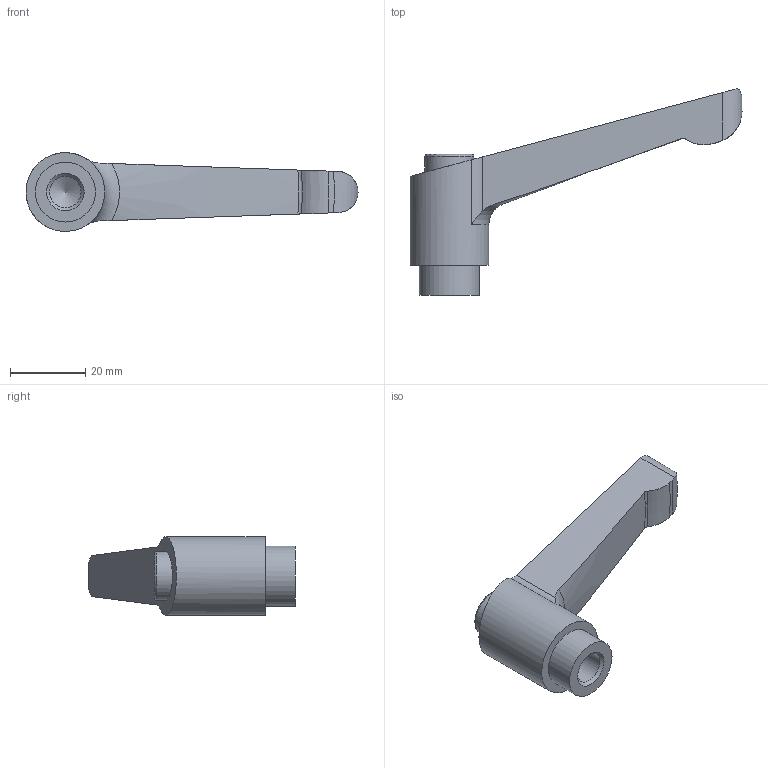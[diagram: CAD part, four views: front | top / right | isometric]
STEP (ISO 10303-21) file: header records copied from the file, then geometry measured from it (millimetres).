
FILE_DESCRIPTION( ( 'STEP AP203' ), '1' );
FILE_NAME( 'C:/Temp/Ganter_Step_05_03_2020/data/2_1/gn303_1/gn303_1_b/Adjustable hand lever GN 303.1-78-M10-SW-G.stp', '2020-03-05T11:21:58', ( 'License CC BY-ND 4.0' ), ( 'CADENAS' ), ' ', 'PARTsolutions', ' ' );
FILE_SCHEMA( ( 'CONFIG_CONTROL_DESIGN' ) );
Length unit declared in the file: millimetre
Products named in the file (1): _Adjustable hand lever GN 303.1-78-M10-SW-G
Bounding box: 88.49 x 55 x 20.97 mm (x, y, z)
Volume: 20761.3 mm3; surface area: 6728.2 mm2
Topology: 1 solids, 1 shells, 24 faces, 59 edges, 39 vertices
Faces by surface type: cylinder 7, plane 6, torus 6, cone 5
Full cylindrical faces by diameter (mm): 8.376 x1, 13 x1, 16 x1, 21 x1
Entity records: 836 total; most frequent: CARTESIAN_POINT 285, DIRECTION 100, ORIENTED_EDGE 98, EDGE_CURVE 49, AXIS2_PLACEMENT_3D 46, VERTEX_POINT 37, EDGE_LOOP 33, FACE_OUTER_BOUND 29
